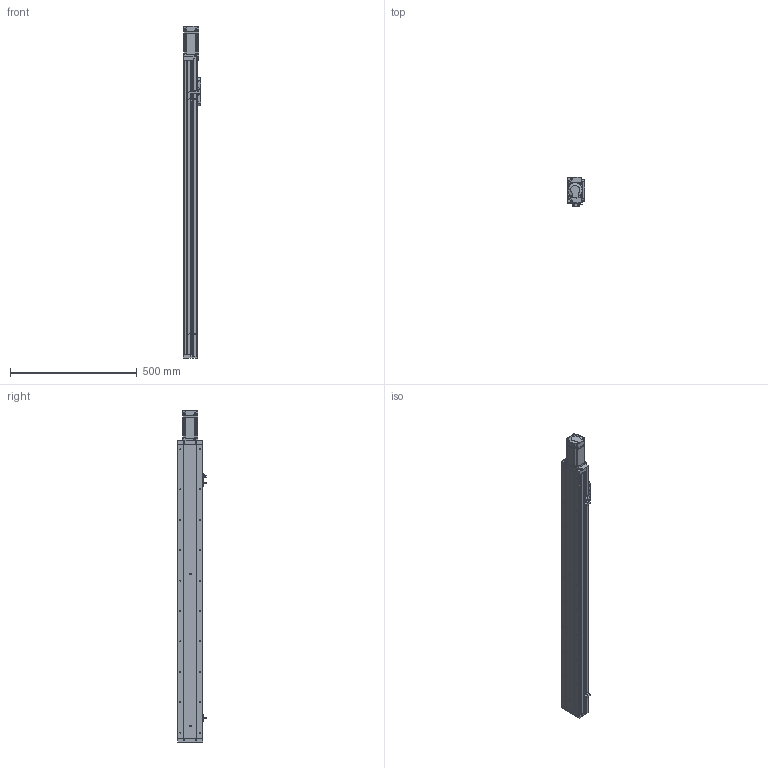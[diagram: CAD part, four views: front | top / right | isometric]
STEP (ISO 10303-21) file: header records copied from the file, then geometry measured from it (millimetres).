
FILE_DESCRIPTION (( 'STEP AP214' ), '1' );
FILE_NAME ('KSD100S-S950-MN-CR.STEP', '2019-09-02T09:42:24', ( '微软用户' ), ( '微软中国' ), 'SwSTEP 2.0', 'SolidWorks 2014', '' );
FILE_SCHEMA (( 'AUTOMOTIVE_DESIGN' ));
Length unit declared in the file: millimetre
Products named in the file (12): MHMD042G1CA_2_03; U倰嫖萇EEㄜSX672; 感应片100宽全封闭; 100宽盖板压板不带电机座; 100宽马达安装板全封闭不带电机座; 100宽端板全封闭; 100宽滚珠螺姆安装板1防护罩; 100宽滚珠螺姆安装板1; 100宽盖板950行程不带电机座; 100宽侧板950行程不带电机座; 100宽底板全封闭950行程不带电机座; KSD100S-S950-MN-CR
Assembly tree (14 placements, depth 2):
  KSD100S-S950-MN-CR
    100宽底板全封闭950行程不带电机座
    100宽侧板950行程不带电机座  x2
    100宽盖板950行程不带电机座
    100宽滚珠螺姆安装板1
    100宽滚珠螺姆安装板1防护罩
    100宽端板全封闭
    100宽马达安装板全封闭不带电机座
    100宽盖板压板不带电机座
    感应片100宽全封闭
    U倰嫖萇EEㄜSX672  x3
    MHMD042G1CA_2_03
Bounding box: 70 x 113.7 x 1310.5 mm (x, y, z)
Volume: 2299499.6 mm3; surface area: 1005151.5 mm2
Topology: 13 solids, 14 shells, 1603 faces, 4505 edges, 2856 vertices
Faces by surface type: cylinder 683, plane 653, cone 249, bspline 18
Entity records: 55420 total; most frequent: CARTESIAN_POINT 8724, DIRECTION 7587, ORIENTED_EDGE 7036, EDGE_CURVE 3590, AXIS2_PLACEMENT_3D 2715, VERTEX_POINT 2378, LINE 2157, VECTOR 2157
